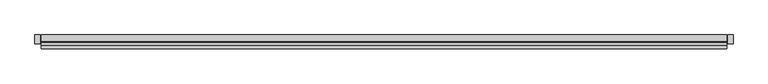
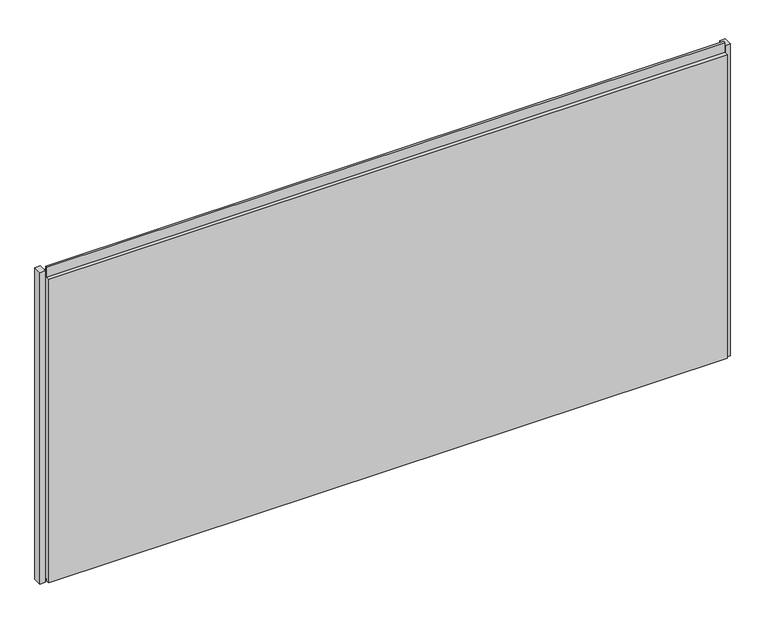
"""IFC4 building model written with IfcOpenShell, lengths in millimetres: plate geometry, Trimo_Qbiss Screen_Normal Panel-HORIZONTAL : HR - B-F."""

from ifc_helpers import new_model, si_unit, frame, origin, place, context, project, spatial, polyline, outline, extrude, source, transform, mapped, element, save


def plate_71f49f83(model_context):
    return source(origin(), model_context, "Body", "SweptSolid", [
        extrude(outline(polyline([(-1236.0, 67.8978162), (-1255.0, 67.8978162), (-1255.0, 100.0), (-1236.0, 100.0), (-1236.0, 67.8978162)])), frame((0.0, 0.0, -1.0), z_axis=(0.0, 0.0, 1.0), x_axis=(1.0, 0.0, 0.0)), (0.0, 0.0, 1.0), 1200.0),
        extrude(outline(polyline([(1259.5, 67.8978162), (1240.5, 67.8978162), (1240.5, 100.0), (1259.5, 100.0), (1259.5, 67.8978162)])), frame((0.0, 0.0, -1.0), z_axis=(0.0, 0.0, 1.0), x_axis=(1.0, 0.0, 0.0)), (0.0, 0.0, 1.0), 1200.0),
        extrude(outline(polyline([(1237.5, 76.0), (1237.5, 71.0), (-1233.0, 71.0), (-1233.0, 76.0), (1237.5, 76.0)])), frame((0.0, 0.0, 1178.0), z_axis=(0.0, 0.0, 1.0), x_axis=(1.0, 0.0, 0.0)), (0.0, 0.0, 1.0), 21.0),
        extrude(outline(polyline([(71.0, 1177.0), (100.0, 1177.0), (100.0, 0.0), (72.0, 0.0), (72.0, 15.5), (62.0, 15.5), (62.0, 7.0), (50.0, 7.0), (50.0, 1177.0), (63.0, 1177.0), (63.0, 1214.5), (71.0, 1214.5), (71.0, 1177.0)])), frame((-1233.0, 0.0, 0.0), z_axis=(1.0, 0.0, 0.0), x_axis=(0.0, 1.0, 0.0)), (0.0, 0.0, 1.0), 2470.5),
    ])


if __name__ == "__main__":
    model = new_model("IFC4")
    model_context = context("Model", 3, world=origin())
    ifc_project = project(units=[si_unit("LENGTHUNIT", "METRE", prefix="MILLI")], contexts=[model_context])
    site = spatial("IfcSite", under=ifc_project)
    building = spatial("IfcBuilding", under=site)
    placement = place(None, origin())
    plate_shape = plate_71f49f83(model_context)
    element("IfcPlate", 1, ObjectType="Trimo_Qbiss Screen_Normal Panel-HORIZONTAL : HR - B-F", at=placement, inside=building, context=model_context, shape_type="MappedRepresentation", body=[
        mapped(plate_shape, transform((0.0, 0.0, 0.0), x_axis=(1.0, 0.0, 0.0), y_axis=(0.0, 1.0, 0.0), z_axis=(0.0, 0.0, 1.0))),
    ])
    save(model, "model.ifc")
